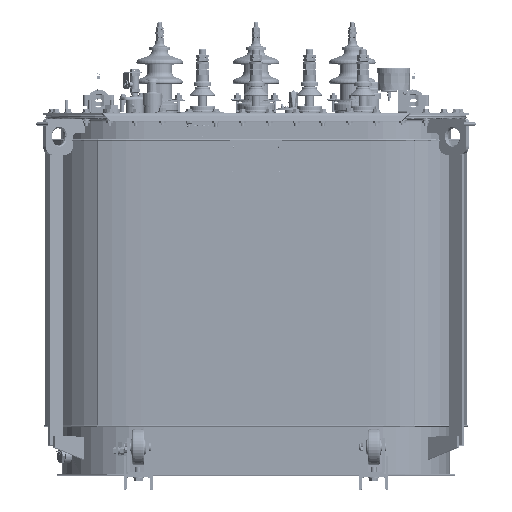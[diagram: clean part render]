
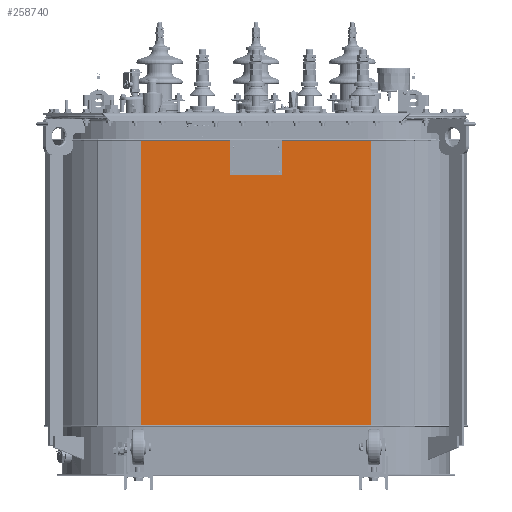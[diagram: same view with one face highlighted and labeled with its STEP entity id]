
A CAD part, top view. The second image highlights one B-rep face of the part: STEP entity #258740.
In plain terms, the highlighted planar face has unit normal (0, 0, -1).
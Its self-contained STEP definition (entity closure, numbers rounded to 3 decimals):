
#42206=FACE_OUTER_BOUND('',#58788,.T.);
#58788=EDGE_LOOP('',(#222503,#222504,#222505,#222506));
#76017=LINE('',#532515,#93276);
#76045=LINE('',#532622,#93304);
#76046=LINE('',#532625,#93305);
#76047=LINE('',#532626,#93306);
#93276=VECTOR('',#347557,10.);
#93304=VECTOR('',#347671,10.);
#93305=VECTOR('',#347676,10.);
#93306=VECTOR('',#347677,10.);
#115864=VERTEX_POINT('',#532509);
#115866=VERTEX_POINT('',#532513);
#115901=VERTEX_POINT('',#532619);
#115902=VERTEX_POINT('',#532621);
#151394=EDGE_CURVE('',#115864,#115866,#76017,.T.);
#151447=EDGE_CURVE('',#115901,#115902,#76045,.T.);
#151449=EDGE_CURVE('',#115864,#115901,#76046,.T.);
#151450=EDGE_CURVE('',#115866,#115902,#76047,.T.);
#222503=ORIENTED_EDGE('',*,*,#151449,.F.);
#222504=ORIENTED_EDGE('',*,*,#151394,.T.);
#222505=ORIENTED_EDGE('',*,*,#151450,.T.);
#222506=ORIENTED_EDGE('',*,*,#151447,.F.);
#229916=PLANE('',#282752);
#258740=ADVANCED_FACE('',(#42206),#229916,.F.);
#282752=AXIS2_PLACEMENT_3D('',#532624,#347674,#347675);
#347557=DIRECTION('',(0.,1.,0.));
#347671=DIRECTION('',(0.,1.,0.));
#347674=DIRECTION('center_axis',(0.,0.,
1.));
#347675=DIRECTION('ref_axis',(1.,0.,0.));
#347676=DIRECTION('',(1.,0.,0.));
#347677=DIRECTION('',(1.,0.,0.));
#532509=CARTESIAN_POINT('',(-323.,135.,455.));
#532513=CARTESIAN_POINT('',(-323.,935.,455.));
#532515=CARTESIAN_POINT('',(-323.,135.,455.));
#532619=CARTESIAN_POINT('',(323.,135.,455.));
#532621=CARTESIAN_POINT('',(323.,935.,455.));
#532622=CARTESIAN_POINT('',(323.,135.,455.));
#532624=CARTESIAN_POINT('Origin',(-323.,135.,455.));
#532625=CARTESIAN_POINT('',(-323.,135.,455.));
#532626=CARTESIAN_POINT('',(-323.,935.,455.));
